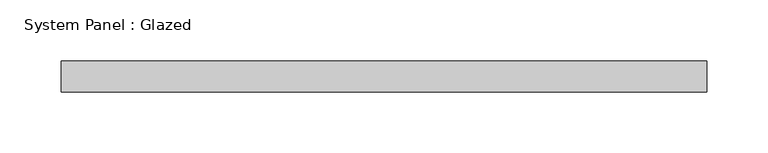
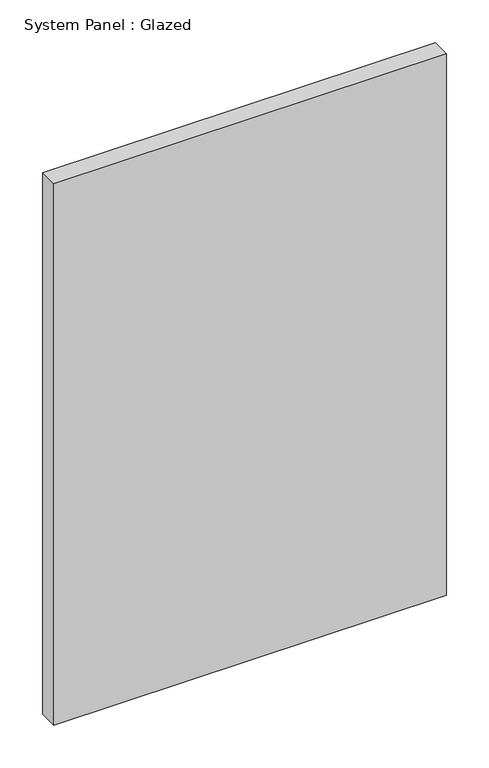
"""IFC4 building model written with IfcOpenShell, lengths in millimetres: plate geometry, System Panel : Glazed."""

from ifc_helpers import new_model, si_unit, origin, origin_with_axes, place, context, project, spatial, polyline, outline, extrude, source, transform, mapped, element, save


def system_panel_glazed_f6bd2fbf(model_context):
    return source(origin(), model_context, "Body", "SweptSolid", [
        extrude(outline(polyline([(264.4802485, -44.45), (-264.4802485, -44.45), (-264.4802485, -19.05), (264.4802485, -19.05), (264.4802485, -44.45)])), origin_with_axes(), (0.0, 0.0, 1.0), 770.6690025),
    ])


if __name__ == "__main__":
    model = new_model("IFC4")
    model_context = context("Model", 3, world=origin())
    ifc_project = project(units=[si_unit("LENGTHUNIT", "METRE", prefix="MILLI")], contexts=[model_context])
    site = spatial("IfcSite", under=ifc_project)
    building = spatial("IfcBuilding", under=site)
    placement = place(None, origin())
    system_panel_glazed_shape = system_panel_glazed_f6bd2fbf(model_context)
    element("IfcPlate", 1, ObjectType="System Panel : Glazed", at=placement, inside=building, context=model_context, shape_type="MappedRepresentation", body=[
        mapped(system_panel_glazed_shape, transform((0.0, 0.0, 0.0), x_axis=(1.0, 0.0, 0.0), y_axis=(0.0, 1.0, 0.0), z_axis=(0.0, 0.0, 1.0))),
    ])
    save(model, "model.ifc")
